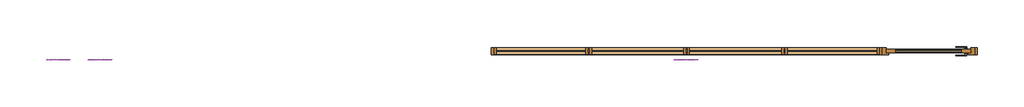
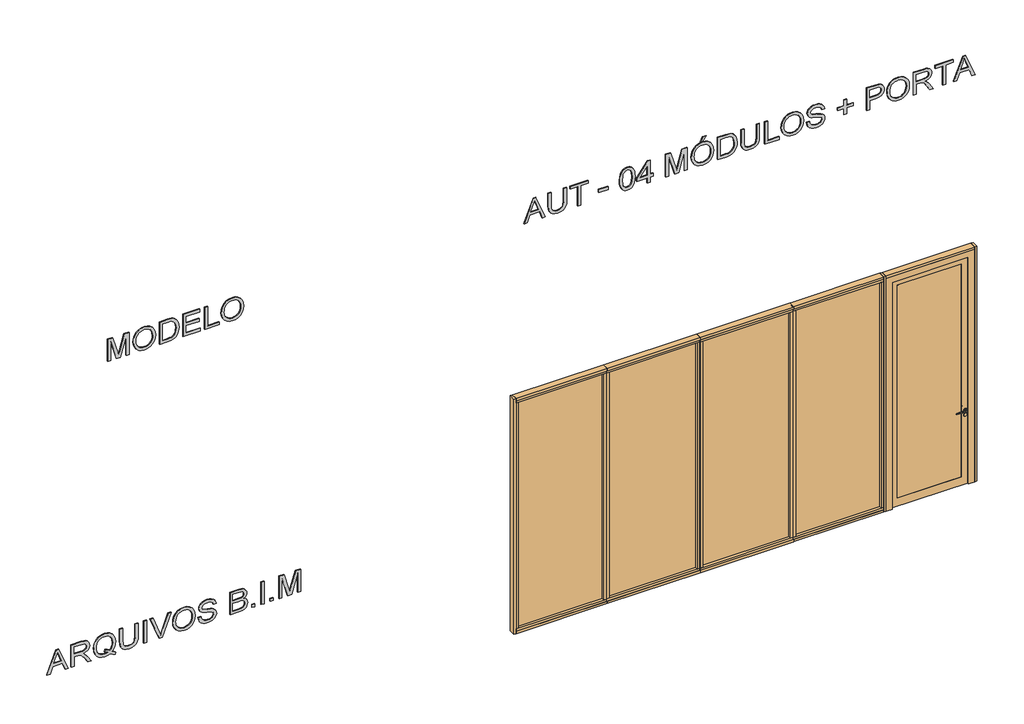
# One storey: 5 doors, 3 proxies.
"""IFC4 building model written with IfcOpenShell, lengths in millimetres."""

from ifc_helpers import new_model, si_unit, frame, origin, place, context, project, spatial, polyline, outline, extrude, transform, mapped, element, save
from components import door_6af38df9, door_76197cc9, door_5d7b52eb, av_a8ed41e1

model = new_model("IFC4")

# Units and contexts
model_context = context("Model", 3, world=origin())
ifc_project = project(units=[si_unit("LENGTHUNIT", "METRE", prefix="MILLI")], contexts=[model_context])

# Site, building, storey
site = spatial("IfcSite", under=ifc_project)
building = spatial("IfcBuilding", under=site)
storey = spatial("IfcBuildingStorey", under=building, Name="09 - Marelli - Planta Baixa - Exemplo", Elevation=-12000.0)

# Proxies
placement = place(None, origin())
element("IfcBuildingElementProxy", 1, Name="300mm Arial", ObjectType="300mm Arial", at=placement, inside=storey, context=model_context, shape_type="SweptSolid", body=[
    extrude(outline(polyline([(-10400.0, -7775.226879), (-10400.0, -7735.4220472), (-10305.8222092, -7700.9882924), (-10305.8222092, -7576.8649072), (-10400.0, -7542.3575761), (-10400.0, -7502.5527442), (-10098.6310696, -7622.8501566), (-10098.6310696, -7654.9294666), (-10400.0, -7775.226879)]), holes=[polyline([(-10268.1510929, -7687.1559294), (-10187.584936, -7657.6517934), (-10136.3021859, -7638.8898116), (-10194.0596591, -7617.7733851), (-10268.1510929, -7590.6236939), (-10268.1510929, -7687.1559294)])]), frame((0.0, 8778.3159498, 0.0), z_axis=(0.0, 1.0, 0.0), x_axis=(0.0, 0.0, 1.0)), (0.0, 0.0, 1.0), 10.0),
    extrude(outline(polyline([(-10400.0, -7462.3064539), (-10400.0, -7424.6353376), (-10268.1510929, -7424.6353376), (-10268.1510929, -7379.165123), (-10269.4754681, -7357.3129325), (-10276.649167, -7339.3970794), (-10296.183701, -7319.4946634), (-10337.5336372, -7291.1677498), (-10400.0, -7251.9515291), (-10400.0, -7208.1735717), (-10318.3301971, -7258.4262522), (-10279.5554348, -7288.9604578), (-10263.4422034, -7310.3711899), (-10253.4542072, -7273.2610937), (-10245.4389783, -7258.8792069), (-10235.4095954, -7247.2794278), (-10210.7982899, -7231.9663397), (-10181.1102129, -7226.861977), (-10157.2438684, -7229.9429887), (-10135.5296337, -7239.1860239), (-10118.0184507, -7253.588604), (-10106.7612616, -7272.1482506), (-10100.6636176, -7297.5413054), (-10098.6310696, -7332.4441096), (-10098.6310696, -7462.3064539), (-10400.0, -7462.3064539)]), holes=[polyline([(-10230.4799766, -7424.6353376), (-10136.3021859, -7424.6353376), (-10136.3021859, -7330.8254289), (-10139.5579415, -7301.0177902), (-10149.3252085, -7280.4623837), (-10164.1324588, -7268.5154159), (-10182.5081645, -7264.5330933), (-10195.8162956, -7266.6208237), (-10208.0759631, -7272.8840146), (-10218.2111121, -7283.1663164), (-10225.1456877, -7297.3113791), (-10229.1464044, -7316.100952), (-10230.4799766, -7340.3167843), (-10230.4799766, -7424.6353376)])]), frame((0.0, 8778.3159498, 0.0), z_axis=(0.0, 1.0, 0.0), x_axis=(0.0, 0.0, 1.0)), (0.0, 0.0, 1.0), 10.0),
    extrude(outline(polyline([(-10363.8739881, -6934.5429437), (-10340.3479345, -6916.0936616), (-10313.0326963, -6902.9786685), (-10281.9650618, -6895.142782), (-10247.1818192, -6892.5308198), (-10205.3536364, -6896.8350392), (-10168.0136138, -6909.7476972), (-10136.8172207, -6930.8733208), (-10113.4199258, -6959.8164367), (-10098.7966164, -6994.6824528), (-10093.92218, -7033.5767768), (-10098.6862519, -7072.1675981), (-10112.9784674, -7106.8588702), (-10136.3849593, -7135.8479714), (-10168.4918604, -7157.3322799), (-10206.944726, -7170.6312141), (-10249.3891112, -7175.0641921), (-10291.7967082, -7170.622017), (-10329.6977507, -7157.2954917), (-10361.3539964, -7135.7284098), (-10385.0272028, -7106.5645646), (-10399.7884679, -7071.7445338), (-10404.7088895, -7033.2088948), (-10400.4414584, -6994.8571968), (-10387.639165, -6960.0003777), (-10408.47968, -6929.0431078), (-10422.8822601, -6897.9754733), (-10395.2911105, -6887.8219303), (-10382.4704229, -6910.2075497), (-10363.8739881, -6934.5429437)]), holes=[polyline([(-10313.7684603, -7022.8346225), (-10342.6104088, -7032.5467072), (-10349.287467, -7012.1844387), (-10359.3122513, -6992.8890281), (-10365.1063928, -7012.5155325), (-10367.0377732, -7033.429624), (-10365.1362832, -7055.1507565), (-10359.431813, -7074.8439396), (-10349.9243627, -7092.5091731), (-10336.6139322, -7108.1464572), (-10319.748842, -7120.9418528), (-10299.5774124, -7130.0814212), (-10276.0996433, -7135.5651621), (-10249.3155348, -7137.3930758), (-10221.8140564, -7135.5444688), (-10197.9500112, -7129.9986477), (-10177.7233993, -7120.7556126), (-10161.1342205, -7107.8153634), (-10148.2100662, -7092.070014), (-10138.9785274, -7074.4116782), (-10133.4396041, -7054.8403561), (-10131.5932963, -7033.3560476), (-10135.2445251, -7004.8727841), (-10146.1982115, -6979.3141825), (-10163.7645768, -6958.1149825), (-10187.2538422, -6942.709924), (-10215.9394408, -6933.3289331), (-10249.0948056, -6930.2019361), (-10278.2678478, -6932.4138266), (-10303.5413409, -6939.0494981), (-10324.9152848, -6950.1089506), (-10342.3896796, -6965.5921841), (-10325.7430193, -6991.1599827), (-10313.7684603, -7022.8346225)])]), frame((0.0, 8778.3159498, 0.0), z_axis=(0.0, 1.0, 0.0), x_axis=(0.0, 0.0, 1.0)), (0.0, 0.0, 1.0), 10.0),
    extrude(outline(polyline([(-10098.6310696, -6638.2507847), (-10271.1677253, -6638.2507847), (-10318.3301971, -6643.0148566), (-10335.0688279, -6648.9699464), (-10347.2457219, -6657.3070721), (-10355.9047444, -6668.440101), (-10362.0897604, -6682.7829003), (-10367.0377732, -6721.0978101), (-10364.5361757, -6745.2676571), (-10357.031383, -6765.3908023), (-10344.9188683, -6780.823452), (-10328.5941047, -6790.9218127), (-10305.0220659, -6796.495225), (-10271.1677253, -6798.353029), (-10098.6310696, -6798.353029), (-10098.6310696, -6836.0241454), (-10272.4921005, -6836.0241454), (-10315.2675795, -6833.1638628), (-10347.9446977, -6824.5830153), (-10372.3076828, -6809.3159125), (-10390.1407625, -6786.3968642), (-10401.0668578, -6755.8166734), (-10404.7088895, -6717.5661429), (-10400.5242318, -6678.4602868), (-10387.9702588, -6647.6685638), (-10368.7484245, -6625.1357916), (-10344.5601833, -6610.8067879), (-10313.2074403, -6603.1364483), (-10272.4921005, -6600.5796684), (-10098.6310696, -6600.5796684), (-10098.6310696, -6638.2507847)])), frame((0.0, 8778.3159498, 0.0), z_axis=(0.0, 1.0, 0.0), x_axis=(0.0, 0.0, 1.0)), (0.0, 0.0, 1.0), 10.0),
    extrude(outline(polyline([(-6492.2752091, 8778.3159498), (-6529.9463254, 8778.3159498), (-6529.9463254, 8788.3159498), (-6492.2752091, 8788.3159498), (-6492.2752091, 8778.3159498)])), frame((0.0, 0.0, -10400.0), z_axis=(0.0, 0.0, 1.0), x_axis=(1.0, 0.0, 0.0)), (0.0, 0.0, 1.0), 301.3689304),
    extrude(outline(polyline([(-10400.0, -6327.9055336), (-10400.0, -6288.9836185), (-10098.6310696, -6174.1308596), (-10098.6310696, -6214.4507263), (-10315.7550231, -6294.9433068), (-10364.6833285, -6310.9829618), (-10315.7550231, -6327.243346), (-10098.6310696, -6407.5151974), (-10098.6310696, -6447.835064), (-10400.0, -6327.9055336)])), frame((0.0, 8778.3159498, 0.0), z_axis=(0.0, 1.0, 0.0), x_axis=(0.0, 0.0, 1.0)), (0.0, 0.0, 1.0), 10.0),
    extrude(outline(polyline([(-10253.2886603, -6153.2351623), (-10291.8334964, -6148.930943), (-10328.2997991, -6136.0182849), (-10359.992833, -6114.7547056), (-10384.2178624, -6085.3977224), (-10399.5861328, -6049.7499571), (-10404.7088895, -6009.6140314), (-10400.0735764, -5971.8049593), (-10386.167637, -5936.6630317), (-10363.2485887, -5906.6990432), (-10331.5739489, -5884.4237884), (-10293.1118863, -5870.6006225), (-10249.8305696, -5865.9929005), (-10207.1194699, -5870.3706962), (-10169.1908362, -5883.5040834), (-10137.5713787, -5904.988392), (-10113.7878078, -5934.4189516), (-10098.8885869, -5969.8643818), (-10093.92218, -6009.3933022), (-10096.5663319, -6039.683786), (-10104.4987874, -6067.0588049), (-10117.7195466, -6091.5183591), (-10136.2286095, -6113.0624484), (-10159.4097737, -6130.6380108), (-10186.6468369, -6143.1919838), (-10217.9397991, -6150.7243677), (-10253.2886603, -6153.2351623)]), holes=[polyline([(-10253.6565423, -6115.564046), (-10223.1200375, -6113.6004759), (-10197.2878236, -6107.7097654), (-10176.1599008, -6097.8919147), (-10159.736269, -6084.1469236), (-10147.4237184, -6067.6796058), (-10138.6290395, -6049.6947748), (-10133.3522321, -6030.1924305), (-10131.5932963, -6009.172573), (-10135.2445251, -5980.0087278), (-10146.1982115, -5953.8799091), (-10163.7921679, -5932.2208567), (-10187.3642068, -5916.4663102), (-10216.1877611, -5906.8645901), (-10249.536264, -5903.6640168), (-10276.0743514, -5905.5333172), (-10299.4026684, -5911.1412183), (-10319.521215, -5920.4877203), (-10336.4299912, -5933.572823), (-10349.8208959, -5949.5549964), (-10359.3858277, -5967.5927105), (-10365.1247869, -5987.6859652), (-10367.0377732, -6009.8347606), (-10365.143181, -6031.6110754), (-10359.4594041, -6051.4698054), (-10349.9864428, -6069.4109504), (-10336.7242968, -6085.4345106), (-10320.1650085, -6098.6161823), (-10300.80062, -6108.0316622), (-10278.6311313, -6113.68095), (-10253.6565423, -6115.564046)])]), frame((0.0, 8778.3159498, 0.0), z_axis=(0.0, 1.0, 0.0), x_axis=(0.0, 0.0, 1.0)), (0.0, 0.0, 1.0), 10.0),
    extrude(outline(polyline([(-10296.4044302, -5828.3217842), (-10326.8282712, -5823.8520179), (-10353.9411742, -5812.0614), (-10376.1980349, -5793.6948914), (-10392.0537489, -5769.4974531), (-10401.5451044, -5739.1195974), (-10404.7088895, -5702.2118362), (-10401.7750306, -5672.1466802), (-10392.9734539, -5645.2269152), (-10378.8835735, -5622.8412958), (-10360.0848035, -5606.3785765), (-10338.2418101, -5596.2526246), (-10315.0192591, -5592.8773073), (-10292.3025459, -5595.8111662), (-10272.4185241, -5604.6127429), (-10255.5511346, -5619.5947372), (-10241.8843185, -5641.0698486), (-10233.0735447, -5666.1961889), (-10222.9751839, -5707.7300661), (-10212.3433943, -5747.9763564), (-10201.9323338, -5769.2399357), (-10190.2888686, -5778.2346505), (-10175.8127121, -5781.2328888), (-10158.8349581, -5777.0022458), (-10144.5427425, -5764.310317), (-10134.8306579, -5742.366156), (-10131.5932963, -5710.3788165), (-10134.8674461, -5679.127241), (-10144.6898953, -5656.5944688), (-10160.9134913, -5642.1734946), (-10183.3910812, -5635.2573131), (-10183.3910812, -5597.5861968), (-10158.4302879, -5601.8352338), (-10136.2286095, -5612.5222058), (-10117.9264802, -5629.4079894), (-10104.6643343, -5652.2534613), (-10096.6077186, -5680.0653401), (-10093.92218, -5711.8503445), (-10096.4881569, -5741.1889336), (-10104.1860877, -5767.6948314), (-10116.8412283, -5789.7769481), (-10134.2788349, -5805.8441943), (-10154.8526355, -5815.6390524), (-10176.9163581, -5818.9040051), (-10196.6532272, -5816.2644518), (-10214.3667452, -5808.3457918), (-10229.7258185, -5795.0560548), (-10242.3993533, -5776.30327), (-10251.4584474, -5753.2646601), (-10260.977394, -5717.2582098), (-10275.36158, -5662.4070043), (-10283.1698754, -5646.3305612), (-10292.4680928, -5636.8024175), (-10303.3665969, -5632.111922), (-10315.9757523, -5630.5484236), (-10328.9160015, -5632.6361539), (-10341.2492454, -5638.8993449), (-10351.9913996, -5649.429967), (-10360.1583799, -5664.3199907), (-10365.3179249, -5682.6956964), (-10367.0377732, -5703.6833642), (-10364.7661019, -5727.5221175), (-10357.951088, -5748.8592732), (-10347.448057, -5766.3152739), (-10334.1123347, -5778.510562), (-10317.3093245, -5786.3280544), (-10296.4044302, -5790.6506679), (-10296.4044302, -5828.3217842)])), frame((0.0, 8778.3159498, 0.0), z_axis=(0.0, 1.0, 0.0), x_axis=(0.0, 0.0, 1.0)), (0.0, 0.0, 1.0), 10.0),
    extrude(outline(polyline([(-10400.0, -5418.6483943), (-10400.0, -5304.5313994), (-10394.8128639, -5256.2284935), (-10388.3933231, -5238.1930787), (-10379.5089729, -5223.4502077), (-10367.2401083, -5211.4112694), (-10350.6670244, -5201.4876526), (-10331.1784758, -5194.8381855), (-10310.1632168, -5192.6216965), (-10284.944906, -5195.8682551), (-10263.2950506, -5205.6079309), (-10246.3356906, -5221.3808715), (-10235.1888662, -5242.7272242), (-10223.4442335, -5224.8573563), (-10208.5174215, -5212.1562304), (-10191.456894, -5204.5686643), (-10173.3111146, -5202.0394756), (-10153.5926396, -5205.0469109), (-10134.7570815, -5214.0692168), (-10118.7450176, -5228.3982205), (-10107.4970256, -5247.3257492), (-10100.8475586, -5272.0198281), (-10098.6310696, -5303.6484826), (-10098.6310696, -5418.6483943), (-10400.0, -5418.6483943)]), holes=[polyline([(-10221.0621975, -5380.977278), (-10136.3021859, -5380.977278), (-10136.3021859, -5317.4072693), (-10140.2385232, -5268.9939987), (-10145.8395266, -5256.504405), (-10154.769862, -5247.288961), (-10166.2109921, -5241.6051842), (-10179.3443793, -5239.7105919), (-10192.8732397, -5241.7431399), (-10203.8821084, -5247.840784), (-10212.2422267, -5257.9483418), (-10217.824836, -5272.0106311), (-10221.0621975, -5312.1833449), (-10221.0621975, -5380.977278)]), polyline([(-10362.3288837, -5380.977278), (-10258.7333139, -5380.977278), (-10258.7333139, -5307.400879), (-10259.9933097, -5280.5730845), (-10263.7732972, -5260.8638066), (-10270.6618875, -5246.9486701), (-10281.247692, -5237.5032999), (-10294.7857494, -5232.0954346), (-10310.5310988, -5230.2928128), (-10324.0875503, -5231.8287201), (-10335.9149564, -5236.4364421), (-10352.6535872, -5252.1082151), (-10360.8573557, -5275.7630274), (-10362.3288837, -5303.722059), (-10362.3288837, -5380.977278)])]), frame((0.0, 8778.3159498, 0.0), z_axis=(0.0, 1.0, 0.0), x_axis=(0.0, 0.0, 1.0)), (0.0, 0.0, 1.0), 10.0),
    extrude(outline(polyline([(-5098.4439057, 8778.3159498), (-5136.115022, 8778.3159498), (-5136.115022, 8788.3159498), (-5098.4439057, 8788.3159498), (-5098.4439057, 8778.3159498)])), frame((0.0, 0.0, -10400.0), z_axis=(0.0, 0.0, 1.0), x_axis=(1.0, 0.0, 0.0)), (0.0, 0.0, 1.0), 37.6711163),
    extrude(outline(polyline([(-4980.7216673, 8778.3159498), (-5018.3927836, 8778.3159498), (-5018.3927836, 8788.3159498), (-4980.7216673, 8788.3159498), (-4980.7216673, 8778.3159498)])), frame((0.0, 0.0, -10400.0), z_axis=(0.0, 0.0, 1.0), x_axis=(1.0, 0.0, 0.0)), (0.0, 0.0, 1.0), 301.3689304),
    extrude(outline(polyline([(-4862.9994288, 8778.3159498), (-4900.6705451, 8778.3159498), (-4900.6705451, 8788.3159498), (-4862.9994288, 8788.3159498), (-4862.9994288, 8778.3159498)])), frame((0.0, 0.0, -10400.0), z_axis=(0.0, 0.0, 1.0), x_axis=(1.0, 0.0, 0.0)), (0.0, 0.0, 1.0), 37.6711163),
    extrude(outline(polyline([(-10400.0, -4787.6571962), (-10400.0, -4749.9860799), (-10136.3021859, -4749.9860799), (-10400.0, -4674.2759653), (-10400.0, -4623.2139444), (-10136.3021859, -4547.5038298), (-10400.0, -4547.5038298), (-10400.0, -4509.8327135), (-10098.6310696, -4509.8327135), (-10098.6310696, -4574.653521), (-10307.3673136, -4635.2804738), (-10355.4127022, -4648.7449548), (-10311.0461336, -4661.1793663), (-10098.6310696, -4722.8363887), (-10098.6310696, -4787.6571962), (-10400.0, -4787.6571962)])), frame((0.0, 8778.3159498, 0.0), z_axis=(0.0, 1.0, 0.0), x_axis=(0.0, 0.0, 1.0)), (0.0, 0.0, 1.0), 10.0),
])
element("IfcBuildingElementProxy", 2, Name="300mm Arial", ObjectType="300mm Arial", at=placement, inside=storey, context=model_context, shape_type="SweptSolid", body=[
    extrude(outline(polyline([(-6400.0, -6993.7719449), (-6400.0, -6956.1008286), (-6136.3021859, -6956.1008286), (-6400.0, -6880.390714), (-6400.0, -6829.328693), (-6136.3021859, -6753.6185784), (-6400.0, -6753.6185784), (-6400.0, -6715.9474621), (-6098.6310696, -6715.9474621), (-6098.6310696, -6780.7682697), (-6307.3673136, -6841.3952225), (-6355.4127022, -6854.8597035), (-6311.0461336, -6867.2941149), (-6098.6310696, -6928.9511373), (-6098.6310696, -6993.7719449), (-6400.0, -6993.7719449)])), frame((0.0, 8778.3159498, 0.0), z_axis=(0.0, 1.0, 0.0), x_axis=(0.0, 0.0, 1.0)), (0.0, 0.0, 1.0), 10.0),
    extrude(outline(polyline([(-6253.2886603, -6664.1496772), (-6291.8334964, -6659.8454579), (-6328.2997991, -6646.9327998), (-6359.992833, -6625.6692205), (-6384.2178624, -6596.3122373), (-6399.5861328, -6560.664472), (-6404.7088895, -6520.5285463), (-6400.0735764, -6482.7194742), (-6386.167637, -6447.5775466), (-6363.2485887, -6417.6135581), (-6331.5739489, -6395.3383033), (-6293.1118863, -6381.5151374), (-6249.8305696, -6376.9074154), (-6207.1194699, -6381.2852111), (-6169.1908362, -6394.4185983), (-6137.5713787, -6415.9029069), (-6113.7878078, -6445.3334665), (-6098.8885869, -6480.7788967), (-6093.92218, -6520.3078171), (-6096.5663319, -6550.5983009), (-6104.4987874, -6577.9733198), (-6117.7195466, -6602.432874), (-6136.2286095, -6623.9769633), (-6159.4097737, -6641.5525257), (-6186.6468369, -6654.1064987), (-6217.9397991, -6661.6388826), (-6253.2886603, -6664.1496772)]), holes=[polyline([(-6253.6565423, -6626.4785609), (-6223.1200375, -6624.5149908), (-6197.2878236, -6618.6242803), (-6176.1599008, -6608.8064296), (-6159.736269, -6595.0614385), (-6147.4237184, -6578.5941207), (-6138.6290395, -6560.6092897), (-6133.3522321, -6541.1069454), (-6131.5932963, -6520.0870879), (-6135.2445251, -6490.9232427), (-6146.1982115, -6464.794424), (-6163.7921679, -6443.1353716), (-6187.3642068, -6427.3808251), (-6216.1877611, -6417.779105), (-6249.536264, -6414.5785317), (-6276.0743514, -6416.4478321), (-6299.4026684, -6422.0557332), (-6319.521215, -6431.4022352), (-6336.4299912, -6444.4873379), (-6349.8208959, -6460.4695113), (-6359.3858277, -6478.5072254), (-6365.1247869, -6498.6004801), (-6367.0377732, -6520.7492755), (-6365.143181, -6542.5255903), (-6359.4594041, -6562.3843203), (-6349.9864428, -6580.3254653), (-6336.7242968, -6596.3490255), (-6320.1650085, -6609.5306972), (-6300.80062, -6618.9461771), (-6278.6311313, -6624.5954649), (-6253.6565423, -6626.4785609)])]), frame((0.0, 8778.3159498, 0.0), z_axis=(0.0, 1.0, 0.0), x_axis=(0.0, 0.0, 1.0)), (0.0, 0.0, 1.0), 10.0),
    extrude(outline(polyline([(-6400.0, -6325.1096305), (-6400.0, -6216.1429835), (-6394.8496521, -6167.6929247), (-6388.4944906, -6148.1491937), (-6379.7297021, -6131.6772774), (-6367.911493, -6117.3298796), (-6352.3960698, -6104.1597042), (-6332.7419742, -6092.7185741), (-6308.5077478, -6083.5583124), (-6280.0428784, -6077.5434418), (-6247.696854, -6075.5384849), (-6209.6210675, -6078.499935), (-6176.0334413, -6087.3842852), (-6147.4857985, -6102.2283237), (-6124.529962, -6123.0688387), (-6111.3413925, -6143.3391366), (-6102.9720771, -6167.3618309), (-6098.6310696, -6221.1461786), (-6098.6310696, -6325.1096305), (-6400.0, -6325.1096305)]), holes=[polyline([(-6362.3288837, -6287.4385141), (-6136.3021859, -6287.4385141), (-6136.3021859, -6221.8083662), (-6137.810502, -6190.06015), (-6142.3354506, -6168.3919005), (-6154.9170148, -6147.10073), (-6175.7391357, -6129.2860444), (-6206.0526121, -6117.228712), (-6247.1082428, -6113.2096012), (-6278.0931038, -6115.2605434), (-6304.0931639, -6121.4133697), (-6325.2003933, -6131.245016), (-6341.5067628, -6144.332418), (-6350.3175366, -6156.5093121), (-6356.8842302, -6172.2914497), (-6360.9677203, -6193.2055411), (-6362.3288837, -6220.7782966), (-6362.3288837, -6287.4385141)])]), frame((0.0, 8778.3159498, 0.0), z_axis=(0.0, 1.0, 0.0), x_axis=(0.0, 0.0, 1.0)), (0.0, 0.0, 1.0), 10.0),
    extrude(outline(polyline([(-6400.0, -6023.7407), (-6400.0, -5802.4228917), (-6362.3288837, -5802.4228917), (-6362.3288837, -5986.0695837), (-6263.4422034, -5986.0695837), (-6263.4422034, -5816.5495603), (-6225.7710871, -5816.5495603), (-6225.7710871, -5986.0695837), (-6136.3021859, -5986.0695837), (-6136.3021859, -5807.1317812), (-6098.6310696, -5807.1317812), (-6098.6310696, -6023.7407), (-6400.0, -6023.7407)])), frame((0.0, 8778.3159498, 0.0), z_axis=(0.0, 1.0, 0.0), x_axis=(0.0, 0.0, 1.0)), (0.0, 0.0, 1.0), 10.0),
    extrude(outline(polyline([(-6400.0, -5745.9162172), (-6400.0, -5557.5606357), (-6362.3288837, -5557.5606357), (-6362.3288837, -5708.2451009), (-6098.6310696, -5708.2451009), (-6098.6310696, -5745.9162172), (-6400.0, -5745.9162172)])), frame((0.0, 8778.3159498, 0.0), z_axis=(0.0, 1.0, 0.0), x_axis=(0.0, 0.0, 1.0)), (0.0, 0.0, 1.0), 10.0),
    extrude(outline(polyline([(-6253.2886603, -5529.3072985), (-6291.8334964, -5525.0030791), (-6328.2997991, -5512.0904211), (-6359.992833, -5490.8268418), (-6384.2178624, -5461.4698586), (-6399.5861328, -5425.8220932), (-6404.7088895, -5385.6861676), (-6400.0735764, -5347.8770955), (-6386.167637, -5312.7351679), (-6363.2485887, -5282.7711794), (-6331.5739489, -5260.4959246), (-6293.1118863, -5246.6727586), (-6249.8305696, -5242.0650367), (-6207.1194699, -5246.4428324), (-6169.1908362, -5259.5762196), (-6137.5713787, -5281.0605281), (-6113.7878078, -5310.4910878), (-6098.8885869, -5345.936518), (-6093.92218, -5385.4654384), (-6096.5663319, -5415.7559222), (-6104.4987874, -5443.1309411), (-6117.7195466, -5467.5904953), (-6136.2286095, -5489.1345846), (-6159.4097737, -5506.7101469), (-6186.6468369, -5519.26412), (-6217.9397991, -5526.7965039), (-6253.2886603, -5529.3072985)]), holes=[polyline([(-6253.6565423, -5491.6361822), (-6223.1200375, -5489.672612), (-6197.2878236, -5483.7819016), (-6176.1599008, -5473.9640508), (-6159.736269, -5460.2190598), (-6147.4237184, -5443.751742), (-6138.6290395, -5425.7669109), (-6133.3522321, -5406.2645667), (-6131.5932963, -5385.2447092), (-6135.2445251, -5356.080864), (-6146.1982115, -5329.9520453), (-6163.7921679, -5308.2929928), (-6187.3642068, -5292.5384464), (-6216.1877611, -5282.9367263), (-6249.536264, -5279.736153), (-6276.0743514, -5281.6054533), (-6299.4026684, -5287.2133545), (-6319.521215, -5296.5598565), (-6336.4299912, -5309.6449592), (-6349.8208959, -5325.6271326), (-6359.3858277, -5343.6648467), (-6365.1247869, -5363.7581014), (-6367.0377732, -5385.9068968), (-6365.143181, -5407.6832116), (-6359.4594041, -5427.5419416), (-6349.9864428, -5445.4830866), (-6336.7242968, -5461.5066468), (-6320.1650085, -5474.6883185), (-6300.80062, -5484.1037983), (-6278.6311313, -5489.7530862), (-6253.6565423, -5491.6361822)])]), frame((0.0, 8778.3159498, 0.0), z_axis=(0.0, 1.0, 0.0), x_axis=(0.0, 0.0, 1.0)), (0.0, 0.0, 1.0), 10.0),
])
element("IfcBuildingElementProxy", 3, Name="300mm Arial", ObjectType="300mm Arial", at=placement, inside=storey, context=model_context, shape_type="SweptSolid", body=[
    extrude(outline(polyline([(-6400.0, -1632.5003858), (-6400.0, -1592.6955539), (-6305.8222092, -1558.2617991), (-6305.8222092, -1434.138414), (-6400.0, -1399.6310828), (-6400.0, -1359.8262509), (-6098.6310696, -1480.1236634), (-6098.6310696, -1512.2029733), (-6400.0, -1632.5003858)]), holes=[polyline([(-6268.1510929, -1544.4294361), (-6187.584936, -1514.9253001), (-6136.3021859, -1496.1633183), (-6194.0596591, -1475.0468918), (-6268.1510929, -1447.8972006), (-6268.1510929, -1544.4294361)])]), frame((0.0, 8778.3159498, 0.0), z_axis=(0.0, 1.0, 0.0), x_axis=(0.0, 0.0, 1.0)), (0.0, 0.0, 1.0), 10.0),
    extrude(outline(polyline([(-6098.6310696, -1121.8066001), (-6271.1677253, -1121.8066001), (-6318.3301971, -1126.5706719), (-6335.0688279, -1132.5257617), (-6347.2457219, -1140.8628874), (-6355.9047444, -1151.9959163), (-6362.0897604, -1166.3387156), (-6367.0377732, -1204.6536254), (-6364.5361757, -1228.8234725), (-6357.031383, -1248.9466176), (-6344.9188683, -1264.3792673), (-6328.5941047, -1274.4776281), (-6305.0220659, -1280.0510403), (-6271.1677253, -1281.9088444), (-6098.6310696, -1281.9088444), (-6098.6310696, -1319.5799607), (-6272.4921005, -1319.5799607), (-6315.2675795, -1316.7196781), (-6347.9446977, -1308.1388306), (-6372.3076828, -1292.8717278), (-6390.1407625, -1269.9526795), (-6401.0668578, -1239.3724887), (-6404.7088895, -1201.1219582), (-6400.5242318, -1162.0161021), (-6387.9702588, -1131.2243791), (-6368.7484245, -1108.6916069), (-6344.5601833, -1094.3626032), (-6313.2074403, -1086.6922636), (-6272.4921005, -1084.1354837), (-6098.6310696, -1084.1354837), (-6098.6310696, -1121.8066001)])), frame((0.0, 8778.3159498, 0.0), z_axis=(0.0, 1.0, 0.0), x_axis=(0.0, 0.0, 1.0)), (0.0, 0.0, 1.0), 10.0),
    extrude(outline(polyline([(-6400.0, -942.8687976), (-6400.0, -905.1976813), (-6136.3021859, -905.1976813), (-6136.3021859, -806.311001), (-6098.6310696, -806.311001), (-6098.6310696, -1041.7554779), (-6136.3021859, -1041.7554779), (-6136.3021859, -942.8687976), (-6400.0, -942.8687976)])), frame((0.0, 8778.3159498, 0.0), z_axis=(0.0, 1.0, 0.0), x_axis=(0.0, 0.0, 1.0)), (0.0, 0.0, 1.0), 10.0),
    extrude(outline(polyline([(-552.0309659, 8778.3159498), (-669.7532044, 8778.3159498), (-669.7532044, 8788.3159498), (-552.0309659, 8788.3159498), (-552.0309659, 8778.3159498)])), frame((0.0, 0.0, -6310.5310988), z_axis=(0.0, 0.0, 1.0), x_axis=(1.0, 0.0, 0.0)), (0.0, 0.0, 1.0), 37.6711163),
    extrude(outline(polyline([(-6251.7435559, -401.3465007), (-6291.1851044, -399.4703025), (-6325.0440435, -393.841708), (-6353.3203733, -384.4607171), (-6376.0140939, -371.3273299), (-6388.568067, -357.6421197), (-6397.5351906, -341.6024647), (-6402.9154648, -323.2083649), (-6404.7088895, -302.4598204), (-6400.5794141, -272.0083882), (-6388.190988, -247.3143093), (-6367.4056552, -228.2120367), (-6338.0854602, -214.5360235), (-6299.7061711, -206.313861), (-6251.7435559, -203.5731401), (-6211.7823742, -205.2837914), (-6180.9262719, -210.4157452), (-6156.6276661, -218.2516317), (-6136.3389741, -228.074081), (-6120.1981515, -241.0787095), (-6108.3431542, -258.4611338), (-6101.0590907, -279.2464665), (-6098.6310696, -302.4598204), (-6102.7329538, -332.7457056), (-6115.0386065, -357.3846023), (-6135.7411658, -376.514466), (-6165.0337697, -390.2732526), (-6203.5050293, -398.5781887), (-6251.7435559, -401.3465007)]), holes=[polyline([(-6251.6699795, -363.6753844), (-6193.1767423, -359.1136477), (-6172.097104, -353.4114767), (-6156.4621192, -345.4284374), (-6141.3421692, -326.4825147), (-6136.3021859, -302.9012788), (-6142.0227509, -277.9956677), (-6159.184446, -258.313981), (-6173.5456393, -250.8459765), (-6193.7469594, -245.5116875), (-6251.6699795, -241.2442564), (-6310.8346014, -245.6588403), (-6331.0980016, -251.1770703), (-6345.1487945, -258.9025922), (-6361.5655286, -278.6210671), (-6367.0377732, -302.4598204), (-6361.5839227, -326.2985737), (-6345.2223709, -346.0170486), (-6331.1945706, -353.7425705), (-6310.9265719, -359.2608005), (-6251.6699795, -363.6753844)])]), frame((0.0, 8778.3159498, 0.0), z_axis=(0.0, 1.0, 0.0), x_axis=(0.0, 0.0, 1.0)), (0.0, 0.0, 1.0), 10.0),
    extrude(outline(polyline([(-6400.0, -48.1797853), (-6400.0, -10.508669), (-6329.3666569, -10.508669), (-6329.3666569, 27.1624473), (-6291.6955406, 27.1624473), (-6291.6955406, -10.508669), (-6103.3399591, -10.508669), (-6103.3399591, -38.7620063), (-6291.6955406, -184.7375819), (-6329.3666569, -184.7375819), (-6329.3666569, -48.1797853), (-6400.0, -48.1797853)]), holes=[polyline([(-6291.6955406, -48.1797853), (-6291.6955406, -138.3844505), (-6175.2976773, -48.1797853), (-6291.6955406, -48.1797853)])]), frame((0.0, 8778.3159498, 0.0), z_axis=(0.0, 1.0, 0.0), x_axis=(0.0, 0.0, 1.0)), (0.0, 0.0, 1.0), 10.0),
    extrude(outline(polyline([(-6400.0, 191.9735811), (-6400.0, 229.6446974), (-6136.3021859, 229.6446974), (-6400.0, 305.354812), (-6400.0, 356.416833), (-6136.3021859, 432.1269476), (-6400.0, 432.1269476), (-6400.0, 469.7980639), (-6098.6310696, 469.7980639), (-6098.6310696, 404.9772563), (-6307.3673136, 344.3503035), (-6355.4127022, 330.8858225), (-6311.0461336, 318.4514111), (-6098.6310696, 256.7943887), (-6098.6310696, 191.9735811), (-6400.0, 191.9735811)])), frame((0.0, 8778.3159498, 0.0), z_axis=(0.0, 1.0, 0.0), x_axis=(0.0, 0.0, 1.0)), (0.0, 0.0, 1.0), 10.0),
    extrude(outline(polyline([(-6079.7955114, 639.3180873), (-6079.7955114, 667.5714245), (-6023.2888369, 714.6603199), (-6023.2888369, 667.5714245), (-6079.7955114, 639.3180873)])), frame((0.0, 8778.3159498, 0.0), z_axis=(0.0, 1.0, 0.0), x_axis=(0.0, 0.0, 1.0)), (0.0, 0.0, 1.0), 10.0),
    extrude(outline(polyline([(-6253.2886603, 521.5958488), (-6291.8334964, 525.9000681), (-6328.2997991, 538.8127262), (-6359.992833, 560.0763055), (-6384.2178624, 589.4332887), (-6399.5861328, 625.081054), (-6404.7088895, 665.2169797), (-6400.0735764, 703.0260518), (-6386.167637, 738.1679794), (-6363.2485887, 768.1319679), (-6331.5739489, 790.4072227), (-6293.1118863, 804.2303886), (-6249.8305696, 808.8381106), (-6207.1194699, 804.4603149), (-6169.1908362, 791.3269277), (-6137.5713787, 769.8426191), (-6113.7878078, 740.4120595), (-6098.8885869, 704.9666293), (-6093.92218, 665.4377089), (-6096.5663319, 635.1472251), (-6104.4987874, 607.7722062), (-6117.7195466, 583.312652), (-6136.2286095, 561.7685627), (-6159.4097737, 544.1930004), (-6186.6468369, 531.6390273), (-6217.9397991, 524.1066434), (-6253.2886603, 521.5958488)]), holes=[polyline([(-6253.6565423, 559.2669651), (-6223.1200375, 561.2305353), (-6197.2878236, 567.1212457), (-6176.1599008, 576.9390964), (-6159.736269, 590.6840875), (-6147.4237184, 607.1514053), (-6138.6290395, 625.1362363), (-6133.3522321, 644.6385806), (-6131.5932963, 665.6584381), (-6135.2445251, 694.8222833), (-6146.1982115, 720.951102), (-6163.7921679, 742.6101545), (-6187.3642068, 758.3647009), (-6216.1877611, 767.966421), (-6249.536264, 771.1669943), (-6276.0743514, 769.2976939), (-6299.4026684, 763.6897928), (-6319.521215, 754.3432908), (-6336.4299912, 741.2581881), (-6349.8208959, 725.2760147), (-6359.3858277, 707.2383006), (-6365.1247869, 687.1450459), (-6367.0377732, 664.9962505), (-6365.143181, 643.2199357), (-6359.4594041, 623.3612057), (-6349.9864428, 605.4200607), (-6336.7242968, 589.3965005), (-6320.1650085, 576.2148288), (-6300.80062, 566.799349), (-6278.6311313, 561.1500611), (-6253.6565423, 559.2669651)])]), frame((0.0, 8778.3159498, 0.0), z_axis=(0.0, 1.0, 0.0), x_axis=(0.0, 0.0, 1.0)), (0.0, 0.0, 1.0), 10.0),
    extrude(outline(polyline([(-6400.0, 860.6358956), (-6400.0, 969.6025425), (-6394.8496521, 1018.0526013), (-6388.4944906, 1037.5963323), (-6379.7297021, 1054.0682486), (-6367.911493, 1068.4156464), (-6352.3960698, 1081.5858219), (-6332.7419742, 1093.0269519), (-6308.5077478, 1102.1872136), (-6280.0428784, 1108.2020842), (-6247.696854, 1110.2070411), (-6209.6210675, 1107.245591), (-6176.0334413, 1098.3612408), (-6147.4857985, 1083.5172023), (-6124.529962, 1062.6766873), (-6111.3413925, 1042.4063894), (-6102.9720771, 1018.3836951), (-6098.6310696, 964.5993474), (-6098.6310696, 860.6358956), (-6400.0, 860.6358956)]), holes=[polyline([(-6362.3288837, 898.3070119), (-6136.3021859, 898.3070119), (-6136.3021859, 963.9371598), (-6137.810502, 995.685376), (-6142.3354506, 1017.3536255), (-6154.9170148, 1038.644796), (-6175.7391357, 1056.4594816), (-6206.0526121, 1068.516814), (-6247.1082428, 1072.5359248), (-6278.0931038, 1070.4849827), (-6304.0931639, 1064.3321563), (-6325.2003933, 1054.50051), (-6341.5067628, 1041.413108), (-6350.3175366, 1029.2362139), (-6356.8842302, 1013.4540764), (-6360.9677203, 992.5399849), (-6362.3288837, 964.9672294), (-6362.3288837, 898.3070119)])]), frame((0.0, 8778.3159498, 0.0), z_axis=(0.0, 1.0, 0.0), x_axis=(0.0, 0.0, 1.0)), (0.0, 0.0, 1.0), 10.0),
    extrude(outline(polyline([(-6098.6310696, 1359.7781866), (-6271.1677253, 1359.7781866), (-6318.3301971, 1355.0141148), (-6335.0688279, 1349.059025), (-6347.2457219, 1340.7218993), (-6355.9047444, 1329.5888704), (-6362.0897604, 1315.2460711), (-6367.0377732, 1276.9311613), (-6364.5361757, 1252.7613142), (-6357.031383, 1232.6381691), (-6344.9188683, 1217.2055194), (-6328.5941047, 1207.1071586), (-6305.0220659, 1201.5337464), (-6271.1677253, 1199.6759423), (-6098.6310696, 1199.6759423), (-6098.6310696, 1162.004826), (-6272.4921005, 1162.004826), (-6315.2675795, 1164.8651085), (-6347.9446977, 1173.4459561), (-6372.3076828, 1188.7130589), (-6390.1407625, 1211.6321072), (-6401.0668578, 1242.212298), (-6404.7088895, 1280.4628285), (-6400.5242318, 1319.5686845), (-6387.9702588, 1350.3604075), (-6368.7484245, 1372.8931797), (-6344.5601833, 1387.2221835), (-6313.2074403, 1394.8925231), (-6272.4921005, 1397.4493029), (-6098.6310696, 1397.4493029), (-6098.6310696, 1359.7781866)])), frame((0.0, 8778.3159498, 0.0), z_axis=(0.0, 1.0, 0.0), x_axis=(0.0, 0.0, 1.0)), (0.0, 0.0, 1.0), 10.0),
    extrude(outline(polyline([(-6400.0, 1463.3737565), (-6400.0, 1651.729338), (-6362.3288837, 1651.729338), (-6362.3288837, 1501.0448728), (-6098.6310696, 1501.0448728), (-6098.6310696, 1463.3737565), (-6400.0, 1463.3737565)])), frame((0.0, 8778.3159498, 0.0), z_axis=(0.0, 1.0, 0.0), x_axis=(0.0, 0.0, 1.0)), (0.0, 0.0, 1.0), 10.0),
    extrude(outline(polyline([(-6253.2886603, 1679.9826752), (-6291.8334964, 1684.2868946), (-6328.2997991, 1697.1995526), (-6359.992833, 1718.4631319), (-6384.2178624, 1747.8201151), (-6399.5861328, 1783.4678805), (-6404.7088895, 1823.6038061), (-6400.0735764, 1861.4128782), (-6386.167637, 1896.5548058), (-6363.2485887, 1926.5187943), (-6331.5739489, 1948.7940491), (-6293.1118863, 1962.6172151), (-6249.8305696, 1967.224937), (-6207.1194699, 1962.8471413), (-6169.1908362, 1949.7137541), (-6137.5713787, 1928.2294456), (-6113.7878078, 1898.7988859), (-6098.8885869, 1863.3534557), (-6093.92218, 1823.8245353), (-6096.5663319, 1793.5340515), (-6104.4987874, 1766.1590326), (-6117.7195466, 1741.6994784), (-6136.2286095, 1720.1553891), (-6159.4097737, 1702.5798268), (-6186.6468369, 1690.0258537), (-6217.9397991, 1682.4934698), (-6253.2886603, 1679.9826752)]), holes=[polyline([(-6253.6565423, 1717.6537915), (-6223.1200375, 1719.6173617), (-6197.2878236, 1725.5080721), (-6176.1599008, 1735.3259229), (-6159.736269, 1749.0709139), (-6147.4237184, 1765.5382317), (-6138.6290395, 1783.5230628), (-6133.3522321, 1803.025407), (-6131.5932963, 1824.0452645), (-6135.2445251, 1853.2091097), (-6146.1982115, 1879.3379284), (-6163.7921679, 1900.9969809), (-6187.3642068, 1916.7515273), (-6216.1877611, 1926.3532474), (-6249.536264, 1929.5538207), (-6276.0743514, 1927.6845204), (-6299.4026684, 1922.0766192), (-6319.521215, 1912.7301172), (-6336.4299912, 1899.6450145), (-6349.8208959, 1883.6628411), (-6359.3858277, 1865.625127), (-6365.1247869, 1845.5318723), (-6367.0377732, 1823.3830769), (-6365.143181, 1801.6067621), (-6359.4594041, 1781.7480321), (-6349.9864428, 1763.8068871), (-6336.7242968, 1747.7833269), (-6320.1650085, 1734.6016552), (-6300.80062, 1725.1861754), (-6278.6311313, 1719.5368875), (-6253.6565423, 1717.6537915)])]), frame((0.0, 8778.3159498, 0.0), z_axis=(0.0, 1.0, 0.0), x_axis=(0.0, 0.0, 1.0)), (0.0, 0.0, 1.0), 10.0),
    extrude(outline(polyline([(-6296.4044302, 2004.8960534), (-6326.8282712, 2009.3658196), (-6353.9411742, 2021.1564375), (-6376.1980349, 2039.5229461), (-6392.0537489, 2063.7203844), (-6401.5451044, 2094.0982401), (-6404.7088895, 2131.0060013), (-6401.7750306, 2161.0711574), (-6392.9734539, 2187.9909224), (-6378.8835735, 2210.3765418), (-6360.0848035, 2226.839261), (-6338.2418101, 2236.965213), (-6315.0192591, 2240.3405303), (-6292.3025459, 2237.4066714), (-6272.4185241, 2228.6050946), (-6255.5511346, 2213.6231004), (-6241.8843185, 2192.1479889), (-6233.0735447, 2167.0216486), (-6222.9751839, 2125.4877714), (-6212.3433943, 2085.2414811), (-6201.9323338, 2063.9779018), (-6190.2888686, 2054.983187), (-6175.8127121, 2051.9849487), (-6158.8349581, 2056.2155917), (-6144.5427425, 2068.9075205), (-6134.8306579, 2090.8516815), (-6131.5932963, 2122.839021), (-6134.8674461, 2154.0905965), (-6144.6898953, 2176.6233687), (-6160.9134913, 2191.0443429), (-6183.3910812, 2197.9605244), (-6183.3910812, 2235.6316407), (-6158.4302879, 2231.3826037), (-6136.2286095, 2220.6956317), (-6117.9264802, 2203.8098481), (-6104.6643343, 2180.9643762), (-6096.6077186, 2153.1524974), (-6093.92218, 2121.367493), (-6096.4881569, 2092.0289039), (-6104.1860877, 2065.5230062), (-6116.8412283, 2043.4408894), (-6134.2788349, 2027.3736433), (-6154.8526355, 2017.5787851), (-6176.9163581, 2014.3138324), (-6196.6532272, 2016.9533857), (-6214.3667452, 2024.8720457), (-6229.7258185, 2038.1617828), (-6242.3993533, 2056.9145675), (-6251.4584474, 2079.9531774), (-6260.977394, 2115.9596277), (-6275.36158, 2170.8108332), (-6283.1698754, 2186.8872764), (-6292.4680928, 2196.41542), (-6303.3665969, 2201.1059155), (-6315.9757523, 2202.669414), (-6328.9160015, 2200.5816836), (-6341.2492454, 2194.3184927), (-6351.9913996, 2183.7878706), (-6360.1583799, 2168.8978468), (-6365.3179249, 2150.5221411), (-6367.0377732, 2129.5344733), (-6364.7661019, 2105.69572), (-6357.951088, 2084.3585643), (-6347.448057, 2066.9025636), (-6334.1123347, 2054.7072755), (-6317.3093245, 2046.8897831), (-6296.4044302, 2042.5671697), (-6296.4044302, 2004.8960534)])), frame((0.0, 8778.3159498, 0.0), z_axis=(0.0, 1.0, 0.0), x_axis=(0.0, 0.0, 1.0)), (0.0, 0.0, 1.0), 10.0),
    extrude(outline(polyline([(-6352.9111046, 2485.2027863), (-6352.9111046, 2522.8739026), (-6272.8599825, 2522.8739026), (-6272.8599825, 2602.9250247), (-6235.1888662, 2602.9250247), (-6235.1888662, 2522.8739026), (-6155.137744, 2522.8739026), (-6155.137744, 2485.2027863), (-6235.1888662, 2485.2027863), (-6235.1888662, 2405.1516641), (-6272.8599825, 2405.1516641), (-6272.8599825, 2485.2027863), (-6352.9111046, 2485.2027863)])), frame((0.0, 8778.3159498, 0.0), z_axis=(0.0, 1.0, 0.0), x_axis=(0.0, 0.0, 1.0)), (0.0, 0.0, 1.0), 10.0),
    extrude(outline(polyline([(-6400.0, 2777.1539376), (-6400.0, 2814.8250539), (-6277.568872, 2814.8250539), (-6277.568872, 2891.4180853), (-6275.904206, 2920.6164194), (-6270.9102079, 2944.9357186), (-6262.5868778, 2964.3759828), (-6250.9342156, 2978.937212), (-6236.8765248, 2989.5437098), (-6221.338109, 2997.1197796), (-6204.3189682, 3001.6654215), (-6185.8191024, 3003.1806355), (-6164.362385, 3000.9365553), (-6144.7266835, 2994.2043148), (-6128.0800233, 2983.7840573), (-6115.5904295, 2970.4759261), (-6106.8624292, 2953.9488275), (-6101.5005491, 2933.8716676), (-6098.6310696, 2888.8429114), (-6098.6310696, 2777.1539376), (-6400.0, 2777.1539376)]), holes=[polyline([(-6239.8977557, 2814.8250539), (-6136.3021859, 2814.8250539), (-6136.3021859, 2892.7424605), (-6138.8773598, 2930.4135768), (-6145.2049301, 2944.641413), (-6155.9470844, 2955.8342227), (-6170.2209058, 2963.090695), (-6187.1434776, 2965.5095192), (-6209.4187324, 2961.4076349), (-6226.0653927, 2949.1019822), (-6236.4396649, 2927.0290625), (-6239.8977557, 2893.6253773), (-6239.8977557, 2814.8250539)])]), frame((0.0, 8778.3159498, 0.0), z_axis=(0.0, 1.0, 0.0), x_axis=(0.0, 0.0, 1.0)), (0.0, 0.0, 1.0), 10.0),
    extrude(outline(polyline([(-6253.2886603, 3040.8517518), (-6291.8334964, 3045.1559711), (-6328.2997991, 3058.0686291), (-6359.992833, 3079.3322085), (-6384.2178624, 3108.6891917), (-6399.5861328, 3144.336957), (-6404.7088895, 3184.4728827), (-6400.0735764, 3222.2819547), (-6386.167637, 3257.4238823), (-6363.2485887, 3287.3878708), (-6331.5739489, 3309.6631256), (-6293.1118863, 3323.4862916), (-6249.8305696, 3328.0940136), (-6207.1194699, 3323.7162179), (-6169.1908362, 3310.5828306), (-6137.5713787, 3289.0985221), (-6113.7878078, 3259.6679625), (-6098.8885869, 3224.2225323), (-6093.92218, 3184.6936119), (-6096.5663319, 3154.4031281), (-6104.4987874, 3127.0281091), (-6117.7195466, 3102.568555), (-6136.2286095, 3081.0244656), (-6159.4097737, 3063.4489033), (-6186.6468369, 3050.8949302), (-6217.9397991, 3043.3625464), (-6253.2886603, 3040.8517518)]), holes=[polyline([(-6253.6565423, 3078.5228681), (-6223.1200375, 3080.4864382), (-6197.2878236, 3086.3771487), (-6176.1599008, 3096.1949994), (-6159.736269, 3109.9399905), (-6147.4237184, 3126.4073083), (-6138.6290395, 3144.3921393), (-6133.3522321, 3163.8944836), (-6131.5932963, 3184.9143411), (-6135.2445251, 3214.0781862), (-6146.1982115, 3240.207005), (-6163.7921679, 3261.8660574), (-6187.3642068, 3277.6206039), (-6216.1877611, 3287.2223239), (-6249.536264, 3290.4228973), (-6276.0743514, 3288.5535969), (-6299.4026684, 3282.9456957), (-6319.521215, 3273.5991938), (-6336.4299912, 3260.5140911), (-6349.8208959, 3244.5319177), (-6359.3858277, 3226.4942036), (-6365.1247869, 3206.4009489), (-6367.0377732, 3184.2521535), (-6365.143181, 3162.4758386), (-6359.4594041, 3142.6171087), (-6349.9864428, 3124.6759636), (-6336.7242968, 3108.6524035), (-6320.1650085, 3095.4707317), (-6300.80062, 3086.0552519), (-6278.6311313, 3080.405964), (-6253.6565423, 3078.5228681)])]), frame((0.0, 8778.3159498, 0.0), z_axis=(0.0, 1.0, 0.0), x_axis=(0.0, 0.0, 1.0)), (0.0, 0.0, 1.0), 10.0),
    extrude(outline(polyline([(-6400.0, 3379.8917985), (-6400.0, 3417.5629148), (-6268.1510929, 3417.5629148), (-6268.1510929, 3463.0331294), (-6269.4754681, 3484.8853199), (-6276.649167, 3502.8011731), (-6296.183701, 3522.7035891), (-6337.5336372, 3551.0305027), (-6400.0, 3590.2467234), (-6400.0, 3634.0246808), (-6318.3301971, 3583.7720003), (-6279.5554348, 3553.2377947), (-6263.4422034, 3531.8270625), (-6253.4542072, 3568.9371588), (-6245.4389783, 3583.3190455), (-6235.4095954, 3594.9188247), (-6210.7982899, 3610.2319128), (-6181.1102129, 3615.3362754), (-6157.2438684, 3612.2552637), (-6135.5296337, 3603.0122286), (-6118.0184507, 3588.6096485), (-6106.7612616, 3570.0500018), (-6100.6636176, 3544.6569471), (-6098.6310696, 3509.7541428), (-6098.6310696, 3379.8917985), (-6400.0, 3379.8917985)]), holes=[polyline([(-6230.4799766, 3417.5629148), (-6136.3021859, 3417.5629148), (-6136.3021859, 3511.3728236), (-6139.5579415, 3541.1804623), (-6149.3252085, 3561.7358687), (-6164.1324588, 3573.6828365), (-6182.5081645, 3577.6651591), (-6195.8162956, 3575.5774288), (-6208.0759631, 3569.3142378), (-6218.2111121, 3559.0319361), (-6225.1456877, 3544.8868734), (-6229.1464044, 3526.0973005), (-6230.4799766, 3501.8814681), (-6230.4799766, 3417.5629148)])]), frame((0.0, 8778.3159498, 0.0), z_axis=(0.0, 1.0, 0.0), x_axis=(0.0, 0.0, 1.0)), (0.0, 0.0, 1.0), 10.0),
    extrude(outline(polyline([(-6400.0, 3756.6029616), (-6400.0, 3794.2740779), (-6136.3021859, 3794.2740779), (-6136.3021859, 3893.1607582), (-6098.6310696, 3893.1607582), (-6098.6310696, 3657.7162813), (-6136.3021859, 3657.7162813), (-6136.3021859, 3756.6029616), (-6400.0, 3756.6029616)])), frame((0.0, 8778.3159498, 0.0), z_axis=(0.0, 1.0, 0.0), x_axis=(0.0, 0.0, 1.0)), (0.0, 0.0, 1.0), 10.0),
    extrude(outline(polyline([(-6400.0, 3900.4448217), (-6400.0, 3940.2496536), (-6305.8222092, 3974.6834083), (-6305.8222092, 4098.8067935), (-6400.0, 4133.3141246), (-6400.0, 4173.1189565), (-6098.6310696, 4052.8215441), (-6098.6310696, 4020.7422341), (-6400.0, 3900.4448217)]), holes=[polyline([(-6268.1510929, 3988.5157713), (-6187.584936, 4018.0199074), (-6136.3021859, 4036.7818891), (-6194.0596591, 4057.8983156), (-6268.1510929, 4085.0480069), (-6268.1510929, 3988.5157713)])]), frame((0.0, 8778.3159498, 0.0), z_axis=(0.0, 1.0, 0.0), x_axis=(0.0, 0.0, 1.0)), (0.0, 0.0, 1.0), 10.0),
])

# Doors
door_shape = door_6af38df9(model_context)
element("IfcDoor", 4, ObjectType="Mobiliário_Mobiliário de Escritório_Painel de Vidro Simples - AUT E AUL (Inicial e Final)_Marelli : AUT - Temperado", at=placement, inside=storey, context=model_context, shape_type="MappedRepresentation", body=[
    mapped(door_shape, transform((-1124.9818251, 8888.3159498, -12000.0), x_axis=(1.0, 0.0, 0.0), y_axis=(0.0, 1.0, 0.0), z_axis=(0.0, 0.0, 1.0))),
])
door_2_shape = door_76197cc9(model_context)
element("IfcDoor", 5, ObjectType="Mobiliário_Mobiliário de Escritório_Painel de Vidro Simples - AUT E AUL (Inicial e Final)_Marelli : AUT - Temperado", at=placement, inside=storey, context=model_context, shape_type="MappedRepresentation", body=[
    mapped(door_2_shape, transform((2465.0181749, 8888.3159498, -12000.0), x_axis=(-1.0, 0.0, 0.0), y_axis=(0.0, -1.0, 0.0), z_axis=(0.0, 0.0, 1.0))),
])
door_3_shape = door_5d7b52eb(model_context)
element("IfcDoor", 6, ObjectType="Mobiliário_Mobiliário de Escritório_Painel de Vidro Simples - AUT E AUL (Complementar)_Marelli : AUT - Temperado", at=placement, inside=storey, context=model_context, shape_type="MappedRepresentation", body=[
    mapped(door_3_shape, transform((75.0181749, 8888.3159498, -12000.0), x_axis=(1.0, 0.0, 0.0), y_axis=(0.0, 1.0, 0.0), z_axis=(0.0, 0.0, 1.0))),
])
element("IfcDoor", 7, ObjectType="Mobiliário_Mobiliário de Escritório_Painel de Vidro Simples - AUT E AUL (Complementar)_Marelli : AUT - Temperado", at=placement, inside=storey, context=model_context, shape_type="MappedRepresentation", body=[
    mapped(door_3_shape, transform((1275.0181749, 8888.3159498, -12000.0), x_axis=(1.0, 0.0, 0.0), y_axis=(0.0, 1.0, 0.0), z_axis=(0.0, 0.0, 1.0))),
])
av_shape = av_a8ed41e1(model_context)
element("IfcDoor", 8, ObjectType="Mobiliário_Mobiliário de Escritório_Porta de Giro Vidro Duplo - AV_Marelli : AV", at=placement, inside=storey, context=model_context, shape_type="MappedRepresentation", body=[
    mapped(av_shape, transform((3635.0181749, 8888.3159498, -12000.0), x_axis=(1.0, 0.0, 0.0), y_axis=(0.0, 1.0, 0.0), z_axis=(0.0, 0.0, 1.0))),
])

save(model, "model.ifc")
